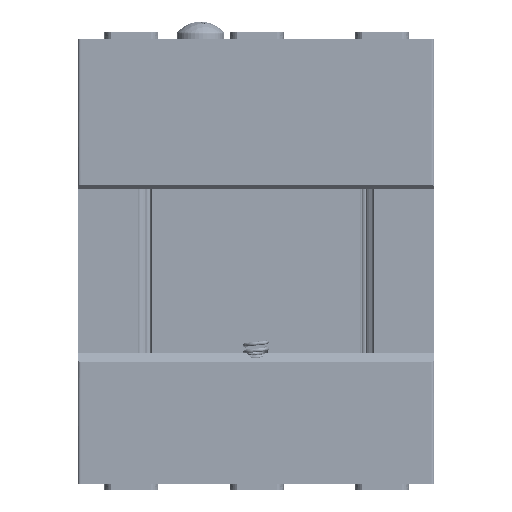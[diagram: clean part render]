
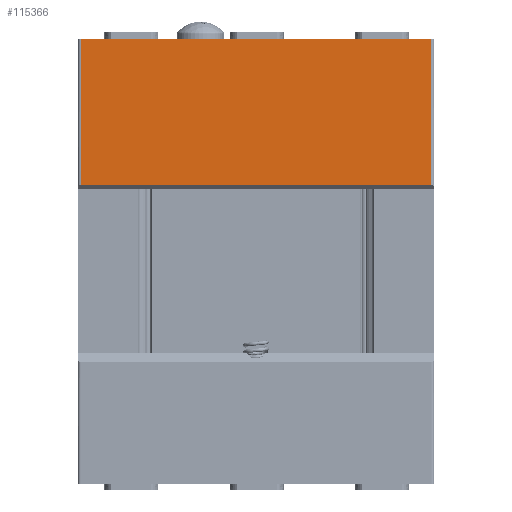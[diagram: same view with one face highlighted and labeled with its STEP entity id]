
A CAD part, front view. The second image highlights one B-rep face of the part: STEP entity #115366.
In plain terms, the highlighted planar face has unit normal (0, -1, 0).
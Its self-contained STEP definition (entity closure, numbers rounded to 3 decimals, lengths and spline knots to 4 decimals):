
#6611=PLANE('',#124760);
#12194=FACE_OUTER_BOUND('',#18728,.T.);
#18728=EDGE_LOOP('',(#105745,#105746,#105747,#105748));
#34244=LINE('',#213481,#46484);
#34361=LINE('',#214291,#46601);
#34370=LINE('',#214310,#46610);
#34371=LINE('',#214312,#46611);
#46484=VECTOR('',#153480,0.3937);
#46601=VECTOR('',#154233,0.3937);
#46610=VECTOR('',#154254,0.3937);
#46611=VECTOR('',#154257,0.3937);
#57328=VERTEX_POINT('',#213478);
#57329=VERTEX_POINT('',#213480);
#57703=VERTEX_POINT('',#214288);
#57704=VERTEX_POINT('',#214290);
#73500=EDGE_CURVE('',#57328,#57329,#34244,.T.);
#73905=EDGE_CURVE('',#57704,#57703,#34361,.T.);
#73916=EDGE_CURVE('',#57704,#57328,#34370,.T.);
#73917=EDGE_CURVE('',#57329,#57703,#34371,.T.);
#105745=ORIENTED_EDGE('',*,*,#73905,.T.);
#105746=ORIENTED_EDGE('',*,*,#73917,.F.);
#105747=ORIENTED_EDGE('',*,*,#73500,.F.);
#105748=ORIENTED_EDGE('',*,*,#73916,.F.);
#115366=ADVANCED_FACE('',(#12194),#6611,.T.);
#124760=AXIS2_PLACEMENT_3D('',#214311,#154255,#154256);
#153480=DIRECTION('',(1.,0.,0.));
#154233=DIRECTION('',(1.,0.,0.));
#154254=DIRECTION('',(0.,0.,1.));
#154255=DIRECTION('center_axis',(0.,-1.,0.));
#154256=DIRECTION('ref_axis',(1.,0.,0.));
#154257=DIRECTION('',(0.,0.,-1.));
#213478=CARTESIAN_POINT('',(0.02,0.,3.5));
#213480=CARTESIAN_POINT('',(2.78,0.,3.5));
#213481=CARTESIAN_POINT('',(0.,0.,3.5));
#214288=CARTESIAN_POINT('',(2.78,0.,2.351));
#214290=CARTESIAN_POINT('',(0.02,0.,2.351));
#214291=CARTESIAN_POINT('',(1.4,0.,2.351));
#214310=CARTESIAN_POINT('',(0.02,0.,0.));
#214311=CARTESIAN_POINT('Origin',(0.,0.,0.));
#214312=CARTESIAN_POINT('',(2.78,0.,0.));
